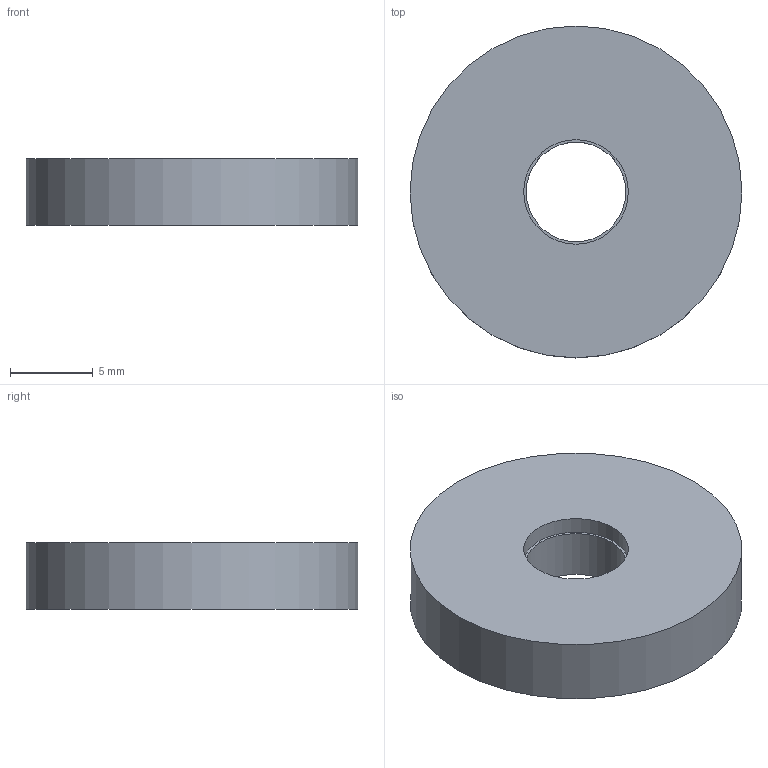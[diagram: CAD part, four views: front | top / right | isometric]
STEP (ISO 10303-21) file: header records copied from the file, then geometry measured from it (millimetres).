
FILE_DESCRIPTION(/* description */ (''),/* implementation_level */ '2;1');
FILE_NAME(/* name */ 'D:\Documents\Projects\Pan Tilt Mount\CAD STEP files\Camera Mounting Bolt Spacer.stp',/* time_stamp */ '2020-06-08T18:40:45+01:00',/* author */ ('isaac879'),/* organization */ (''),/* preprocessor_version */ 'ST-DEVELOPER v18',/* originating_system */ 'Autodesk Inventor 2020',/* authorisation */ '');
FILE_SCHEMA (('AUTOMOTIVE_DESIGN { 1 0 10303 214 3 1 1 }'));
Length unit declared in the file: millimetre
Products named in the file (1): Camera Mounting Bolt Spacer
Bounding box: 20 x 20 x 4 mm (x, y, z)
Volume: 1140.6 mm3; surface area: 899.4 mm2
Topology: 1 solids, 1 shells, 6 faces, 13 edges, 10 vertices
Faces by surface type: cylinder 3, plane 3
Full cylindrical faces by diameter (mm): 6 x1, 6.3 x1, 20 x1
Entity records: 224 total; most frequent: DIRECTION 37, CARTESIAN_POINT 30, ORIENTED_EDGE 26, AXIS2_PLACEMENT_3D 17, EDGE_CURVE 13, CIRCLE 10, VERTEX_POINT 10, EDGE_LOOP 9
